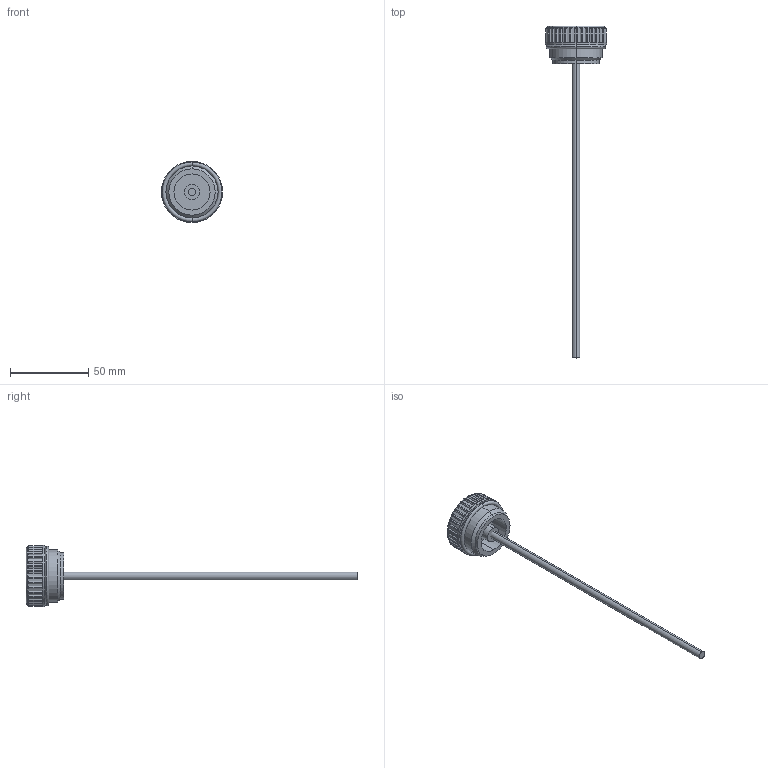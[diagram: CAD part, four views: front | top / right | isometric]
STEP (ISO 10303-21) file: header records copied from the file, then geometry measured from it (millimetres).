
FILE_DESCRIPTION (( 'STEP AP203' ), '1' );
FILE_NAME ('Wiberger-wn9132_1tum.step', '2012-09-21T10:34:03', ( 'Magnus' ), ( 'Wiberger' ), 'SwSTEP 2.0', 'SolidWorks 2011', '' );
FILE_SCHEMA (( 'CONFIG_CONTROL_DESIGN' ));
Length unit declared in the file: millimetre
Products named in the file (1): Wiberger-wn9132_1tum
Bounding box: 39 x 212 x 39 mm (x, y, z)
Volume: 22779.4 mm3; surface area: 10768.3 mm2
Topology: 3 solids, 3 shells, 207 faces, 616 edges, 315 vertices
Faces by surface type: cylinder 120, torus 76, plane 9, cone 2
Entity records: 6237 total; most frequent: CARTESIAN_POINT 1388, DIRECTION 1112, ORIENTED_EDGE 958, AXIS2_PLACEMENT_3D 495, EDGE_CURVE 479, CIRCLE 287, VERTEX_POINT 281, EDGE_LOOP 212
